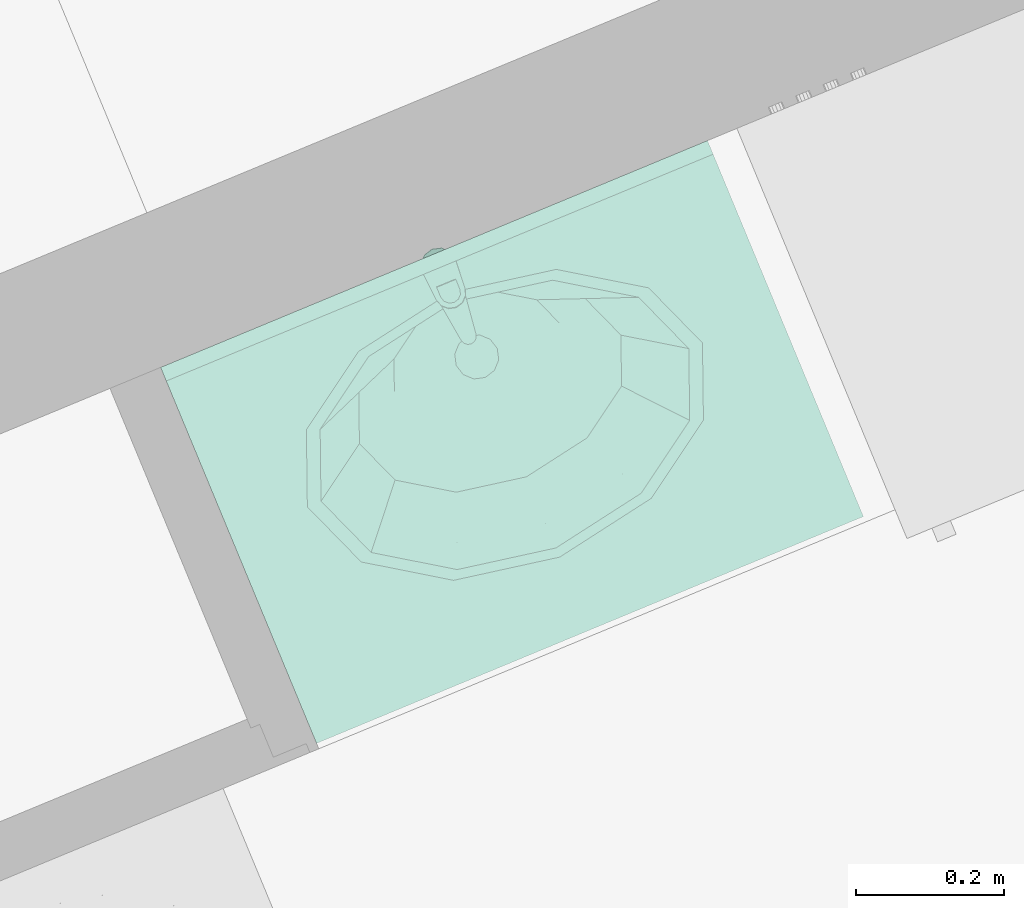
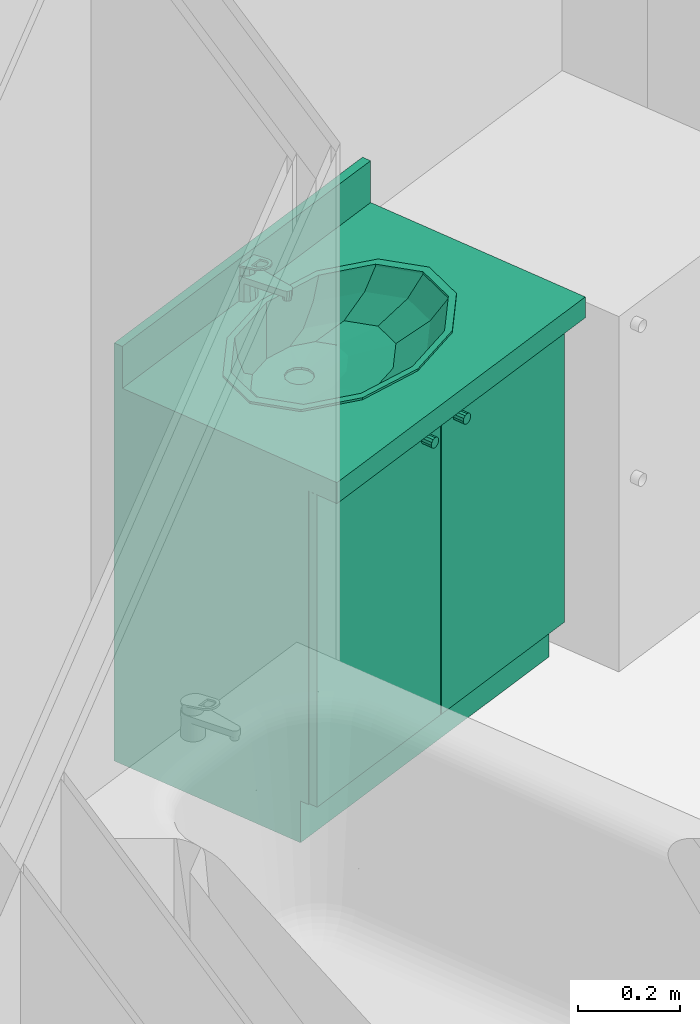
# One storey, part 85 of 119: 1 flow terminal.
"""IFC2X3 building model written with IfcOpenShell, lengths in metres."""

from ifc_helpers import new_model, entity, si_unit, converted_unit, derived_unit, money_unit, direction, frame, origin_with_axes, place, context, subcontext, project, spatial, open_shell, faceted_brep, surface_model, source, transform, mapped, type_object, element, save


model = new_model("IFC2X3")

# Units and contexts
model_context = context("Model", 3, precision=1e-05, world=origin_with_axes(), true_north=direction((0.0, 1.0)))
body_context = subcontext(model_context, "Body", "Model", "MODEL_VIEW")
ifc_project = project(units=[si_unit("LENGTHUNIT", "METRE"), si_unit("AREAUNIT", "SQUARE_METRE"), si_unit("VOLUMEUNIT", "CUBIC_METRE"), converted_unit("PLANEANGLEUNIT", "DEGREE", entity("IfcPlaneAngleMeasure", 0.0174532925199), si_unit("PLANEANGLEUNIT", "RADIAN"), dimensions=[0, 0, 0, 0, 0, 0, 0]), si_unit("SOLIDANGLEUNIT", "STERADIAN"), money_unit("EUR"), converted_unit("TIMEUNIT", "Year", entity("IfcTimeMeasure", 31556926.0), si_unit("TIMEUNIT", "SECOND"), dimensions=[0, 0, 1, 0, 0, 0, 0]), si_unit("MASSUNIT", "GRAM", prefix="KILO"), si_unit("THERMODYNAMICTEMPERATUREUNIT", "DEGREE_CELSIUS"), si_unit("LUMINOUSINTENSITYUNIT", "LUMEN"), si_unit("ENERGYUNIT", "JOULE", prefix="MEGA"), derived_unit("THERMALCONDUCTANCEUNIT", [(si_unit("POWERUNIT", "WATT"), 1), (si_unit("LENGTHUNIT", "METRE"), -1), (si_unit("THERMODYNAMICTEMPERATUREUNIT", "KELVIN"), -1)]), derived_unit("SPECIFICHEATCAPACITYUNIT", [(si_unit("ENERGYUNIT", "JOULE"), 1), (si_unit("MASSUNIT", "GRAM", prefix="KILO"), -1), (si_unit("THERMODYNAMICTEMPERATUREUNIT", "KELVIN"), -1)]), derived_unit("MASSDENSITYUNIT", [(si_unit("MASSUNIT", "GRAM", prefix="KILO"), 1), (si_unit("VOLUMEUNIT", "CUBIC_METRE"), -1)])], contexts=[model_context])

# Site, building, storey
site_placement = place(None, origin_with_axes())
site = spatial("IfcSite", under=ifc_project, at=site_placement, Name="Site", CompositionType="ELEMENT")
building_placement = place(site_placement, origin_with_axes())
building = spatial("IfcBuilding", under=site, at=building_placement, Name="Bâtiment", CompositionType="ELEMENT")
storey_placement = place(building_placement, origin_with_axes())
storey = spatial("IfcBuildingStorey", under=building, at=storey_placement, Name="Rez-de-chaussée", CompositionType="ELEMENT", Elevation=0.0)

# Flow terminal
sanitary_terminal_type = type_object("IfcSanitaryTerminalType", Name="Lavabo sur meuble 23", PredefinedType="NOTDEFINED")
shared_shape = source(origin_with_axes(), body_context, "Body", "SurfaceModel", [
    faceted_brep([(0.0, 0.09, 0.0), (0.8, 0.09, 0.0), (0.8, 0.09, 0.1), (0.0, 0.09, 0.1), (0.0, 0.550000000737, 0.0), (0.8, 0.550000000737, 0.0), (0.8, 0.550000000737, 0.1), (0.0, 0.550000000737, 0.1)], [[[0, 1, 2, 3]], [[0, 4, 5, 1]], [[1, 5, 6, 2]], [[3, 2, 6, 7]], [[4, 0, 3, 7]], [[5, 4, 7, 6]]]),
    faceted_brep([(0.0, 0.07, 0.1), (0.02, 0.07, 0.1), (0.02, 0.07, 0.12), (0.0, 0.07, 0.12), (0.0, 0.550000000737, 0.1), (0.02, 0.550000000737, 0.1), (0.78, 0.550000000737, 0.1), (0.8, 0.550000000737, 0.1), (0.8, 0.07, 0.1), (0.78, 0.07, 0.1), (0.78, 0.07, 0.12), (0.8, 0.07, 0.12), (0.8, 0.550000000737, 0.12), (0.78, 0.550000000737, 0.12), (0.02, 0.550000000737, 0.12), (0.0, 0.550000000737, 0.12)], [[[0, 1, 2, 3]], [[0, 4, 5, 6, 7, 8, 9, 1]], [[1, 9, 10, 2]], [[3, 2, 10, 11, 12, 13, 14, 15]], [[4, 0, 3, 15]], [[5, 4, 15, 14]], [[6, 5, 14, 13]], [[7, 6, 13, 12]], [[8, 7, 12, 11]], [[9, 8, 11, 10]]]),
    faceted_brep([(0.0, 0.07, 0.12), (0.02, 0.07, 0.12), (0.02, 0.07, 0.85), (0.0, 0.07, 0.85), (0.0, 0.550000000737, 0.12), (0.8, 0.550000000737, 0.12), (0.8, 0.07, 0.12), (0.78, 0.07, 0.12), (0.78, 0.530000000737, 0.12), (0.02, 0.530000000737, 0.12), (0.02, 0.530000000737, 0.85), (0.78, 0.530000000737, 0.85), (0.78, 0.07, 0.85), (0.8, 0.07, 0.85), (0.8, 0.550000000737, 0.85), (0.0, 0.550000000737, 0.85)], [[[0, 1, 2, 3]], [[0, 4, 5, 6, 7, 8, 9, 1]], [[1, 9, 10, 2]], [[3, 2, 10, 11, 12, 13, 14, 15]], [[4, 0, 3, 15]], [[5, 4, 15, 14]], [[6, 5, 14, 13]], [[7, 6, 13, 12]], [[8, 7, 12, 11]], [[9, 8, 11, 10]]]),
    faceted_brep([(0.78, 0.07, 0.323333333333), (0.78, 0.530000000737, 0.323333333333), (0.78, 0.530000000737, 0.343333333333), (0.78, 0.07, 0.343333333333), (0.02, 0.07, 0.323333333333), (0.02, 0.530000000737, 0.323333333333), (0.02, 0.530000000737, 0.343333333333), (0.02, 0.07, 0.343333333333)], [[[0, 1, 2, 3]], [[0, 4, 5, 1]], [[1, 5, 6, 2]], [[3, 2, 6, 7]], [[4, 0, 3, 7]], [[5, 4, 7, 6]]]),
    faceted_brep([(0.78, 0.07, 0.566666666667), (0.78, 0.530000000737, 0.566666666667), (0.78, 0.530000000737, 0.586666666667), (0.78, 0.07, 0.586666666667), (0.02, 0.07, 0.566666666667), (0.02, 0.530000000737, 0.566666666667), (0.02, 0.530000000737, 0.586666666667), (0.02, 0.07, 0.586666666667)], [[[0, 1, 2, 3]], [[0, 4, 5, 1]], [[1, 5, 6, 2]], [[3, 2, 6, 7]], [[4, 0, 3, 7]], [[5, 4, 7, 6]]]),
    faceted_brep([(0.0, 0.550000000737, 0.85), (0.8, 0.550000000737, 0.85), (0.8, 0.0, 0.85), (0.0, 0.0, 0.85), (0.535, 0.144115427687, 0.85), (0.633826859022, 0.210000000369, 0.85), (0.67, 0.300000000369, 0.85), (0.633826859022, 0.390000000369, 0.85), (0.535, 0.45588457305, 0.85), (0.4, 0.480000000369, 0.85), (0.265, 0.45588457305, 0.85), (0.166173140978, 0.390000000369, 0.85), (0.13, 0.300000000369, 0.85), (0.166173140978, 0.210000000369, 0.85), (0.265, 0.144115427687, 0.85), (0.4, 0.120000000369, 0.85), (0.0, 0.550000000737, 0.9), (0.8, 0.550000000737, 0.9), (0.8, 0.0, 0.9), (0.0, 0.0, 0.9), (0.535, 0.144115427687, 0.9), (0.633826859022, 0.210000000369, 0.9), (0.67, 0.300000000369, 0.9), (0.633826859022, 0.390000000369, 0.9), (0.535, 0.45588457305, 0.9), (0.4, 0.480000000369, 0.9), (0.265, 0.45588457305, 0.9), (0.166173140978, 0.390000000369, 0.9), (0.13, 0.300000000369, 0.9), (0.166173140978, 0.210000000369, 0.9), (0.265, 0.144115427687, 0.9), (0.4, 0.120000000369, 0.9)], [[[0, 1, 2, 3], [4, 5, 6, 7, 8, 9, 10, 11, 12, 13, 14, 15]], [[0, 16, 17, 1]], [[1, 17, 18, 2]], [[2, 18, 19, 3]], [[3, 19, 16, 0]], [[20, 21, 5, 4]], [[21, 22, 6, 5]], [[22, 23, 7, 6]], [[23, 24, 8, 7]], [[24, 25, 9, 8]], [[25, 26, 10, 9]], [[26, 27, 11, 10]], [[27, 28, 12, 11]], [[28, 29, 13, 12]], [[29, 30, 14, 13]], [[30, 31, 15, 14]], [[31, 20, 4, 15]], [[18, 17, 16, 19], [24, 23, 22, 21, 20, 31, 30, 29, 28, 27, 26, 25]]]),
    faceted_brep([(0.0, 0.530000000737, 0.9), (0.8, 0.530000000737, 0.9), (0.8, 0.530000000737, 1.0), (0.0, 0.530000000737, 1.0), (0.0, 0.550000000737, 0.9), (0.8, 0.550000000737, 0.9), (0.8, 0.550000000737, 1.0), (0.0, 0.550000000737, 1.0)], [[[0, 1, 2, 3]], [[0, 4, 5, 1]], [[1, 5, 6, 2]], [[3, 2, 6, 7]], [[4, 0, 3, 7]], [[5, 4, 7, 6]]]),
    faceted_brep([(0.689, 0.300000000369, 0.905), (0.689, 0.300000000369, 0.9), (0.650281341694, 0.396691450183, 0.9), (0.650281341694, 0.396691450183, 0.905), (0.650281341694, 0.203308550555, 0.905), (0.650281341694, 0.203308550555, 0.9), (0.5445, 0.132525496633, 0.9), (0.4, 0.10661710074, 0.9), (0.2555, 0.132525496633, 0.9), (0.149718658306, 0.203308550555, 0.9), (0.111, 0.300000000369, 0.9), (0.149718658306, 0.396691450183, 0.9), (0.2555, 0.467474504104, 0.9), (0.4, 0.493382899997, 0.9), (0.5445, 0.467474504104, 0.9), (0.669, 0.300000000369, 0.9), (0.632960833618, 0.390000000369, 0.9), (0.5345, 0.45588457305, 0.9), (0.4, 0.480000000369, 0.9), (0.2655, 0.45588457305, 0.9), (0.167039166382, 0.390000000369, 0.9), (0.131, 0.300000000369, 0.9), (0.167039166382, 0.210000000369, 0.9), (0.2655, 0.144115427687, 0.9), (0.4, 0.120000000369, 0.9), (0.5345, 0.144115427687, 0.9), (0.632960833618, 0.210000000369, 0.9), (0.5445, 0.467474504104, 0.905), (0.4, 0.493382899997, 0.905), (0.2555, 0.467474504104, 0.905), (0.149718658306, 0.396691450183, 0.905), (0.111, 0.300000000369, 0.905), (0.149718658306, 0.203308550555, 0.905), (0.2555, 0.132525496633, 0.905), (0.4, 0.10661710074, 0.905), (0.5445, 0.132525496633, 0.905), (0.669, 0.300000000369, 0.905), (0.632960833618, 0.210000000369, 0.905), (0.5345, 0.144115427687, 0.905), (0.4, 0.120000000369, 0.905), (0.2655, 0.144115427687, 0.905), (0.167039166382, 0.210000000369, 0.905), (0.131, 0.300000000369, 0.905), (0.167039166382, 0.390000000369, 0.905), (0.2655, 0.45588457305, 0.905), (0.4, 0.480000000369, 0.905), (0.5345, 0.45588457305, 0.905), (0.632960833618, 0.390000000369, 0.905)], [[[0, 1, 2, 3]], [[4, 5, 1, 0]], [[1, 5, 6, 7, 8, 9, 10, 11, 12, 13, 14, 2], [15, 16, 17, 18, 19, 20, 21, 22, 23, 24, 25, 26]], [[3, 2, 14, 27]], [[0, 3, 27, 28, 29, 30, 31, 32, 33, 34, 35, 4], [36, 37, 38, 39, 40, 41, 42, 43, 44, 45, 46, 47]], [[35, 6, 5, 4]], [[34, 7, 6, 35]], [[33, 8, 7, 34]], [[32, 9, 8, 33]], [[31, 10, 9, 32]], [[30, 11, 10, 31]], [[29, 12, 11, 30]], [[28, 13, 12, 29]], [[27, 14, 13, 28]], [[47, 16, 15, 36]], [[46, 17, 16, 47]], [[45, 18, 17, 46]], [[44, 19, 18, 45]], [[43, 20, 19, 44]], [[42, 21, 20, 43]], [[41, 22, 21, 42]], [[40, 23, 22, 41]], [[39, 24, 23, 40]], [[38, 25, 24, 39]], [[37, 26, 25, 38]], [[36, 15, 26, 37]]]),
    surface_model("IfcShellBasedSurfaceModel", [(0.4, 0.480000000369, 0.9), (0.4, 0.480000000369, 0.848), (0.52105, 0.458296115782, 0.848), (0.5345, 0.45588457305, 0.9), (0.2655, 0.45588457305, 0.9), (0.27895, 0.458296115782, 0.848), (0.609664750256, 0.399000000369, 0.848), (0.632960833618, 0.390000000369, 0.9), (0.167039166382, 0.390000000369, 0.9), (0.190335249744, 0.399000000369, 0.848), (0.6421, 0.318000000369, 0.848), (0.669, 0.300000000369, 0.9), (0.131, 0.300000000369, 0.9), (0.1579, 0.318000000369, 0.848), (0.609664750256, 0.237000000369, 0.848), (0.632960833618, 0.210000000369, 0.9), (0.167039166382, 0.210000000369, 0.9), (0.190335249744, 0.237000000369, 0.848), (0.52105, 0.177703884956, 0.848), (0.5345, 0.144115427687, 0.9), (0.2655, 0.144115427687, 0.9), (0.27895, 0.177703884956, 0.848), (0.4, 0.156000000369, 0.848), (0.4, 0.120000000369, 0.9)], [open_shell([[[0, 1, 2, 3]], [[4, 5, 1, 0]], [[3, 2, 6, 7]], [[8, 9, 5, 4]], [[7, 6, 10, 11]], [[12, 13, 9, 8]], [[11, 10, 14, 15]], [[16, 17, 13, 12]], [[15, 14, 18, 19]], [[20, 21, 17, 16]], [[19, 18, 22, 23]], [[23, 22, 21, 20]]])]),
    surface_model("IfcShellBasedSurfaceModel", [(0.4, 0.480000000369, 0.848), (0.4, 0.480000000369, 0.796), (0.4956295, 0.462853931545, 0.796), (0.52105, 0.458296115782, 0.848), (0.27895, 0.458296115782, 0.848), (0.3043705, 0.462853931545, 0.796), (0.565635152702, 0.416010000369, 0.796), (0.609664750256, 0.399000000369, 0.848), (0.190335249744, 0.399000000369, 0.848), (0.234364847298, 0.416010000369, 0.796), (0.591259, 0.352020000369, 0.796), (0.6421, 0.318000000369, 0.848), (0.1579, 0.318000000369, 0.848), (0.208741, 0.352020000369, 0.796), (0.565635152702, 0.288030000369, 0.796), (0.609664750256, 0.237000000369, 0.848), (0.190335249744, 0.237000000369, 0.848), (0.234364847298, 0.288030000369, 0.796), (0.4956295, 0.241186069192, 0.796), (0.52105, 0.177703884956, 0.848), (0.27895, 0.177703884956, 0.848), (0.3043705, 0.241186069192, 0.796), (0.4, 0.224040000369, 0.796), (0.4, 0.156000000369, 0.848)], [open_shell([[[0, 1, 2, 3]], [[4, 5, 1, 0]], [[3, 2, 6, 7]], [[8, 9, 5, 4]], [[7, 6, 10, 11]], [[12, 13, 9, 8]], [[11, 10, 14, 15]], [[16, 17, 13, 12]], [[15, 14, 18, 19]], [[20, 21, 17, 16]], [[19, 18, 22, 23]], [[23, 22, 21, 20]]])]),
    surface_model("IfcShellBasedSurfaceModel", [(0.4, 0.480000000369, 0.796), (0.4, 0.480000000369, 0.77), (0.460246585, 0.46919797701, 0.77), (0.4956295, 0.462853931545, 0.796), (0.3043705, 0.462853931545, 0.796), (0.339753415, 0.46919797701, 0.77), (0.504350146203, 0.439686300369, 0.77), (0.565635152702, 0.416010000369, 0.796), (0.234364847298, 0.416010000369, 0.796), (0.295649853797, 0.439686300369, 0.77), (0.52049317, 0.399372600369, 0.77), (0.591259, 0.352020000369, 0.796), (0.208741, 0.352020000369, 0.796), (0.27950683, 0.399372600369, 0.77), (0.504350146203, 0.359058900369, 0.77), (0.565635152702, 0.288030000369, 0.796), (0.234364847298, 0.288030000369, 0.796), (0.295649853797, 0.359058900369, 0.77), (0.460246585, 0.329547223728, 0.77), (0.4956295, 0.241186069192, 0.796), (0.3043705, 0.241186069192, 0.796), (0.339753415, 0.329547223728, 0.77), (0.4, 0.318745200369, 0.77), (0.4, 0.224040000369, 0.796)], [open_shell([[[0, 1, 2, 3]], [[4, 5, 1, 0]], [[3, 2, 6, 7]], [[8, 9, 5, 4]], [[7, 6, 10, 11]], [[12, 13, 9, 8]], [[11, 10, 14, 15]], [[16, 17, 13, 12]], [[15, 14, 18, 19]], [[20, 21, 17, 16]], [[19, 18, 22, 23]], [[23, 22, 21, 20]]])]),
    surface_model("IfcShellBasedSurfaceModel", [(0.4, 0.480000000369, 0.77), (0.415, 0.425353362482, 0.763), (0.460246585, 0.46919797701, 0.77), (0.4, 0.429372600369, 0.763), (0.425980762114, 0.414372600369, 0.763), (0.339753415, 0.46919797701, 0.77), (0.504350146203, 0.439686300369, 0.77), (0.385, 0.425353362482, 0.763), (0.43, 0.399372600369, 0.763), (0.295649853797, 0.439686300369, 0.77), (0.52049317, 0.399372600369, 0.77), (0.374019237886, 0.414372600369, 0.763), (0.425980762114, 0.384372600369, 0.763), (0.27950683, 0.399372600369, 0.77), (0.504350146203, 0.359058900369, 0.77), (0.37, 0.399372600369, 0.763), (0.415, 0.373391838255, 0.763), (0.295649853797, 0.359058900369, 0.77), (0.460246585, 0.329547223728, 0.77), (0.374019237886, 0.384372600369, 0.763), (0.4, 0.369372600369, 0.763), (0.339753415, 0.329547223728, 0.77), (0.4, 0.318745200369, 0.77), (0.385, 0.373391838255, 0.763)], [open_shell([[[0, 1, 2]], [[0, 3, 1]], [[2, 1, 4]], [[5, 3, 0]], [[2, 4, 6]], [[5, 7, 3]], [[6, 4, 8]], [[9, 7, 5]], [[6, 8, 10]], [[9, 11, 7]], [[10, 8, 12]], [[13, 11, 9]], [[10, 12, 14]], [[13, 15, 11]], [[14, 12, 16]], [[17, 15, 13]], [[14, 16, 18]], [[17, 19, 15]], [[18, 16, 20]], [[21, 19, 17]], [[18, 20, 22]], [[21, 23, 19]], [[22, 20, 23]], [[22, 23, 21]]])]),
    surface_model("IfcShellBasedSurfaceModel", [(0.43, 0.399372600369, 0.763), (0.43, 0.399372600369, 0.758), (0.425980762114, 0.414372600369, 0.758), (0.425980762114, 0.414372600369, 0.763), (0.425980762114, 0.384372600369, 0.763), (0.425980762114, 0.384372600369, 0.758), (0.415, 0.373391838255, 0.758), (0.4, 0.369372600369, 0.758), (0.385, 0.373391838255, 0.758), (0.374019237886, 0.384372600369, 0.758), (0.37, 0.399372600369, 0.758), (0.374019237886, 0.414372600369, 0.758), (0.385, 0.425353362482, 0.758), (0.4, 0.429372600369, 0.758), (0.415, 0.425353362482, 0.758), (0.415, 0.425353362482, 0.763), (0.415, 0.373391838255, 0.763), (0.4, 0.369372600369, 0.763), (0.385, 0.373391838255, 0.763), (0.374019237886, 0.384372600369, 0.763), (0.37, 0.399372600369, 0.763), (0.374019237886, 0.414372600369, 0.763), (0.385, 0.425353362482, 0.763), (0.4, 0.429372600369, 0.763)], [open_shell([[[0, 1, 2, 3]], [[4, 5, 1, 0]], [[1, 5, 6, 7, 8, 9, 10, 11, 12, 13, 14, 2]], [[3, 2, 14, 15]], [[16, 6, 5, 4]], [[17, 7, 6, 16]], [[18, 8, 7, 17]], [[19, 9, 8, 18]], [[20, 10, 9, 19]], [[21, 11, 10, 20]], [[22, 12, 11, 21]], [[23, 13, 12, 22]], [[15, 14, 13, 23]]])]),
    faceted_brep([(0.4125, 0.554150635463, 0.9), (0.4, 0.557500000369, 0.9), (0.4, 0.553701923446, 0.975961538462), (0.410587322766, 0.550837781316, 0.976507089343), (0.421650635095, 0.545000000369, 0.9), (0.425, 0.532500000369, 0.9), (0.421650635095, 0.520000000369, 0.9), (0.4125, 0.510849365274, 0.9), (0.4, 0.507500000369, 0.9), (0.3875, 0.510849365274, 0.9), (0.378349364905, 0.520000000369, 0.9), (0.375, 0.532500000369, 0.9), (0.378349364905, 0.545000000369, 0.9), (0.3875, 0.554150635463, 0.9), (0.389412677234, 0.550837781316, 0.976507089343), (0.381726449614, 0.543050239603, 0.977990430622), (0.379, 0.532500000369, 0.98), (0.381899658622, 0.522049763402, 0.981990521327), (0.389585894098, 0.514462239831, 0.983435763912), (0.4, 0.511698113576, 0.983962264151), (0.410414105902, 0.514462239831, 0.983435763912), (0.418100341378, 0.522049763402, 0.981990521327), (0.421, 0.532500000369, 0.98), (0.418273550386, 0.543050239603, 0.977990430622)], [[[0, 1, 2, 3]], [[0, 4, 5, 6, 7, 8, 9, 10, 11, 12, 13, 1]], [[1, 13, 14, 2]], [[3, 2, 14, 15, 16, 17, 18, 19, 20, 21, 22, 23]], [[4, 0, 3, 23]], [[5, 4, 23, 22]], [[6, 5, 22, 21]], [[7, 6, 21, 20]], [[8, 7, 20, 19]], [[9, 8, 19, 18]], [[10, 9, 18, 17]], [[11, 10, 17, 16]], [[12, 11, 16, 15]], [[13, 12, 15, 14]]]),
    faceted_brep([(0.409, 0.429500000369, 0.935), (0.407794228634, 0.434000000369, 0.935), (0.407794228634, 0.434000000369, 0.945), (0.409, 0.429500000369, 0.945), (0.407794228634, 0.425000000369, 0.935), (0.4045, 0.421705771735, 0.935), (0.4, 0.420500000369, 0.935), (0.3955, 0.421705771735, 0.935), (0.392205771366, 0.425000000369, 0.935), (0.391, 0.429500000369, 0.935), (0.392205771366, 0.434000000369, 0.935), (0.3955, 0.437294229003, 0.935), (0.4, 0.438500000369, 0.935), (0.4045, 0.437294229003, 0.935), (0.4045, 0.437294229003, 0.945), (0.4, 0.438500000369, 0.945), (0.3955, 0.437294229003, 0.945), (0.392205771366, 0.434000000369, 0.945), (0.391, 0.429500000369, 0.945), (0.392205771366, 0.425000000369, 0.945), (0.3955, 0.421705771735, 0.945), (0.4, 0.420500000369, 0.945), (0.4045, 0.421705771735, 0.945), (0.407794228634, 0.425000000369, 0.945)], [[[0, 1, 2, 3]], [[0, 4, 5, 6, 7, 8, 9, 10, 11, 12, 13, 1]], [[1, 13, 14, 2]], [[3, 2, 14, 15, 16, 17, 18, 19, 20, 21, 22, 23]], [[4, 0, 3, 23]], [[5, 4, 23, 22]], [[6, 5, 22, 21]], [[7, 6, 21, 20]], [[8, 7, 20, 19]], [[9, 8, 19, 18]], [[10, 9, 18, 17]], [[11, 10, 17, 16]], [[12, 11, 16, 15]], [[13, 12, 15, 14]]]),
    faceted_brep([(0.387128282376, 0.552756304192, 0.96), (0.378272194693, 0.542693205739, 0.96), (0.3761946, 0.529450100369, 0.96), (0.389088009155, 0.428111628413, 0.96), (0.390971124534, 0.42321680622, 0.96), (0.394906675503, 0.419750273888, 0.96), (0.400000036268, 0.418500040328, 0.96), (0.405093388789, 0.419750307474, 0.96), (0.409028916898, 0.423216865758, 0.96), (0.410912, 0.428111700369, 0.96), (0.423805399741, 0.529450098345, 0.96), (0.421727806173, 0.542693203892, 0.96), (0.412871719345, 0.552756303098, 0.96), (0.40000000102, 0.556499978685, 0.96), (0.411, 0.551552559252, 0.96), (0.419052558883, 0.543500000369, 0.96), (0.422, 0.532500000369, 0.96), (0.419052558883, 0.521500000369, 0.96), (0.411, 0.513447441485, 0.96), (0.4, 0.510500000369, 0.96), (0.389, 0.513447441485, 0.96), (0.380947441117, 0.521500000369, 0.96), (0.378, 0.532500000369, 0.96), (0.380947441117, 0.543500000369, 0.96), (0.389, 0.551552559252, 0.96), (0.4, 0.554500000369, 0.96), (0.378272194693, 0.542693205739, 0.945), (0.387128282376, 0.552756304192, 0.945), (0.3761946, 0.529450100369, 0.945), (0.389088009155, 0.428111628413, 0.945), (0.390971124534, 0.42321680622, 0.945), (0.394906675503, 0.419750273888, 0.945), (0.400000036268, 0.418500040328, 0.945), (0.405093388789, 0.419750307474, 0.945), (0.409028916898, 0.423216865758, 0.945), (0.410912, 0.428111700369, 0.945), (0.423805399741, 0.529450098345, 0.945), (0.421727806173, 0.542693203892, 0.945), (0.412871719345, 0.552756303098, 0.945), (0.40000000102, 0.556499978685, 0.945), (0.411375, 0.552202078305, 0.945), (0.419702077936, 0.543875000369, 0.945), (0.42275, 0.532500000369, 0.945), (0.419702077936, 0.521125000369, 0.945), (0.411375, 0.512797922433, 0.945), (0.4, 0.509750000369, 0.945), (0.388625, 0.512797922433, 0.945), (0.380297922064, 0.521125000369, 0.945), (0.37725, 0.532500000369, 0.945), (0.380297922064, 0.543875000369, 0.945), (0.388625, 0.552202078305, 0.945), (0.4, 0.555250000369, 0.945)], [[[0, 1, 2, 3, 4, 5, 6, 7, 8, 9, 10, 11, 12, 13], [14, 15, 16, 17, 18, 19, 20, 21, 22, 23, 24, 25]], [[26, 1, 0, 27]], [[28, 2, 1, 26]], [[29, 3, 2, 28]], [[30, 4, 3, 29]], [[31, 5, 4, 30]], [[32, 6, 5, 31]], [[33, 7, 6, 32]], [[34, 8, 7, 33]], [[35, 9, 8, 34]], [[36, 10, 9, 35]], [[37, 11, 10, 36]], [[38, 12, 11, 37]], [[39, 13, 12, 38]], [[27, 0, 13, 39]], [[40, 41, 15, 14]], [[41, 42, 16, 15]], [[42, 43, 17, 16]], [[43, 44, 18, 17]], [[44, 45, 19, 18]], [[20, 19, 45, 46]], [[21, 20, 46, 47]], [[22, 21, 47, 48]], [[23, 22, 48, 49]], [[24, 23, 49, 50]], [[50, 51, 25, 24]], [[51, 40, 14, 25]], [[32, 31, 30, 29, 28, 26, 27, 39, 38, 37, 36, 35, 34, 33], [44, 43, 42, 41, 40, 51, 50, 49, 48, 47, 46, 45]]]),
    faceted_brep([(0.423893, 0.530807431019, 0.980322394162), (0.421296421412, 0.543274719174, 0.977947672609), (0.421296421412, 0.544023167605, 0.981877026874), (0.423893, 0.53155587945, 0.984251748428), (0.420945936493, 0.490663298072, 0.987968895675), (0.417663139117, 0.480985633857, 0.989812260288), (0.410061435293, 0.474036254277, 0.991135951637), (0.399999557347, 0.471514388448, 0.991616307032), (0.389937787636, 0.474036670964, 0.991135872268), (0.382336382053, 0.480986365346, 0.989812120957), (0.379054, 0.490664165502, 0.987968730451), (0.376106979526, 0.530807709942, 0.980322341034), (0.378703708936, 0.543274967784, 0.977947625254), (0.38752831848, 0.55259119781, 0.976173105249), (0.400000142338, 0.556031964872, 0.975517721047), (0.41247192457, 0.552591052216, 0.976173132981), (0.414, 0.506959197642, 0.984864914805), (0.386, 0.506959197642, 0.984864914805), (0.386, 0.492143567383, 0.987686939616), (0.387875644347, 0.485267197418, 0.988996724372), (0.393, 0.480233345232, 0.989955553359), (0.4, 0.478390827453, 0.990306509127), (0.407, 0.480233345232, 0.989955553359), (0.412124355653, 0.485267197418, 0.988996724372), (0.414, 0.492143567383, 0.987686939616), (0.41247192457, 0.553339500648, 0.980102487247), (0.400000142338, 0.556780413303, 0.979447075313), (0.38752831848, 0.553339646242, 0.980102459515), (0.378703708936, 0.544023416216, 0.98187697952), (0.376106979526, 0.531556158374, 0.984251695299), (0.379054, 0.491412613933, 0.991898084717), (0.382336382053, 0.481734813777, 0.993741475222), (0.389937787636, 0.474785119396, 0.995065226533), (0.399999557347, 0.47226283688, 0.995545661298), (0.410061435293, 0.474784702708, 0.995065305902), (0.417663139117, 0.481734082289, 0.993741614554), (0.420945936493, 0.491411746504, 0.991898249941), (0.414, 0.507707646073, 0.988794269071), (0.414, 0.492892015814, 0.991616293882), (0.412124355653, 0.48601564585, 0.992926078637), (0.407, 0.480981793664, 0.993884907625), (0.4, 0.479139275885, 0.994235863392), (0.393, 0.480981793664, 0.993884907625), (0.387875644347, 0.48601564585, 0.992926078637), (0.386, 0.492892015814, 0.991616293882), (0.386, 0.507707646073, 0.988794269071)], [[[0, 1, 2, 3]], [[0, 4, 5, 6, 7, 8, 9, 10, 11, 12, 13, 14, 15, 1], [16, 17, 18, 19, 20, 21, 22, 23, 24]], [[1, 15, 25, 2]], [[3, 2, 25, 26, 27, 28, 29, 30, 31, 32, 33, 34, 35, 36], [37, 38, 39, 40, 41, 42, 43, 44, 45]], [[4, 0, 3, 36]], [[5, 4, 36, 35]], [[6, 5, 35, 34]], [[7, 6, 34, 33]], [[8, 7, 33, 32]], [[9, 8, 32, 31]], [[10, 9, 31, 30]], [[11, 10, 30, 29]], [[12, 11, 29, 28]], [[13, 12, 28, 27]], [[14, 13, 27, 26]], [[15, 14, 26, 25]], [[17, 16, 37, 45]], [[18, 17, 45, 44]], [[19, 18, 44, 43]], [[20, 19, 43, 42]], [[21, 20, 42, 41]], [[22, 21, 41, 40]], [[23, 22, 40, 39]], [[24, 23, 39, 38]], [[16, 24, 38, 37]]]),
    faceted_brep([(0.0015, 0.07, 0.1015), (0.3985, 0.07, 0.1015), (0.3985, 0.05, 0.1015), (0.0015, 0.05, 0.1015), (0.0015, 0.07, 0.8485), (0.3985, 0.07, 0.8485), (0.3985, 0.05, 0.8485), (0.0015, 0.05, 0.8485)], [[[0, 1, 2, 3]], [[0, 4, 5, 1]], [[1, 5, 6, 2]], [[3, 2, 6, 7]], [[4, 0, 3, 7]], [[5, 4, 7, 6]]]),
    faceted_brep([(0.358892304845, 0.05, 0.7855), (0.3545, 0.05, 0.781107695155), (0.3485, 0.05, 0.7795), (0.3425, 0.05, 0.781107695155), (0.338107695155, 0.05, 0.7855), (0.3365, 0.05, 0.7915), (0.338107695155, 0.05, 0.7975), (0.3425, 0.05, 0.801892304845), (0.3485, 0.05, 0.8035), (0.3545, 0.05, 0.801892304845), (0.358892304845, 0.05, 0.7975), (0.3605, 0.05, 0.7915), (0.358892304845, 0.025, 0.7855), (0.3545, 0.025, 0.781107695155), (0.3485, 0.025, 0.7795), (0.3425, 0.025, 0.781107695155), (0.338107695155, 0.025, 0.7855), (0.3365, 0.025, 0.7915), (0.338107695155, 0.025, 0.7975), (0.3425, 0.025, 0.801892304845), (0.3485, 0.025, 0.8035), (0.3545, 0.025, 0.801892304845), (0.358892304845, 0.025, 0.7975), (0.3605, 0.025, 0.7915)], [[[0, 1, 2, 3, 4, 5, 6, 7, 8, 9, 10, 11]], [[1, 0, 12, 13]], [[2, 1, 13, 14]], [[3, 2, 14, 15]], [[4, 3, 15, 16]], [[5, 4, 16, 17]], [[6, 5, 17, 18]], [[7, 6, 18, 19]], [[8, 7, 19, 20]], [[9, 8, 20, 21]], [[10, 9, 21, 22]], [[11, 10, 22, 23]], [[0, 11, 23, 12]], [[12, 23, 22, 21, 20, 19, 18, 17, 16, 15, 14, 13]]]),
    faceted_brep([(0.7985, 0.07, 0.1015), (0.7985, 0.05, 0.1015), (0.4015, 0.05, 0.1015), (0.4015, 0.07, 0.1015), (0.7985, 0.07, 0.8485), (0.7985, 0.05, 0.8485), (0.4015, 0.05, 0.8485), (0.4015, 0.07, 0.8485)], [[[0, 1, 2, 3]], [[4, 5, 1, 0]], [[1, 5, 6, 2]], [[3, 2, 6, 7]], [[0, 3, 7, 4]], [[7, 6, 5, 4]]]),
    faceted_brep([(0.441107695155, 0.05, 0.7855), (0.4395, 0.05, 0.7915), (0.441107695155, 0.05, 0.7975), (0.4455, 0.05, 0.801892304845), (0.4515, 0.05, 0.8035), (0.4575, 0.05, 0.801892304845), (0.461892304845, 0.05, 0.7975), (0.4635, 0.05, 0.7915), (0.461892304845, 0.05, 0.7855), (0.4575, 0.05, 0.781107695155), (0.4515, 0.05, 0.7795), (0.4455, 0.05, 0.781107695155), (0.441107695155, 0.025, 0.7855), (0.4395, 0.025, 0.7915), (0.441107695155, 0.025, 0.7975), (0.4455, 0.025, 0.801892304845), (0.4515, 0.025, 0.8035), (0.4575, 0.025, 0.801892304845), (0.461892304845, 0.025, 0.7975), (0.4635, 0.025, 0.7915), (0.461892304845, 0.025, 0.7855), (0.4575, 0.025, 0.781107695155), (0.4515, 0.025, 0.7795), (0.4455, 0.025, 0.781107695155)], [[[0, 1, 2, 3, 4, 5, 6, 7, 8, 9, 10, 11]], [[0, 12, 13, 1]], [[1, 13, 14, 2]], [[2, 14, 15, 3]], [[3, 15, 16, 4]], [[4, 16, 17, 5]], [[5, 17, 18, 6]], [[6, 18, 19, 7]], [[7, 19, 20, 8]], [[8, 20, 21, 9]], [[9, 21, 22, 10]], [[10, 22, 23, 11]], [[11, 23, 12, 0]], [[12, 23, 22, 21, 20, 19, 18, 17, 16, 15, 14, 13]]]),
])
flow_terminal_placement = place(storey_placement, frame((-21.2827113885, -22.2917223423, 0.0), z_axis=(0.0, 0.0, 1.0), x_axis=(0.923701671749, 0.38311254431, 0.0)))
element("IfcFlowTerminal", 1, at=flow_terminal_placement, inside=storey, type_object=sanitary_terminal_type, Name="MOB-002", ObjectType="SANITARY_TERMINAL", context=body_context, shape_type="MappedRepresentation", body=[
    mapped(shared_shape, transform((0.0, 0.0, 0.0))),
])

save(model, "model.ifc")
